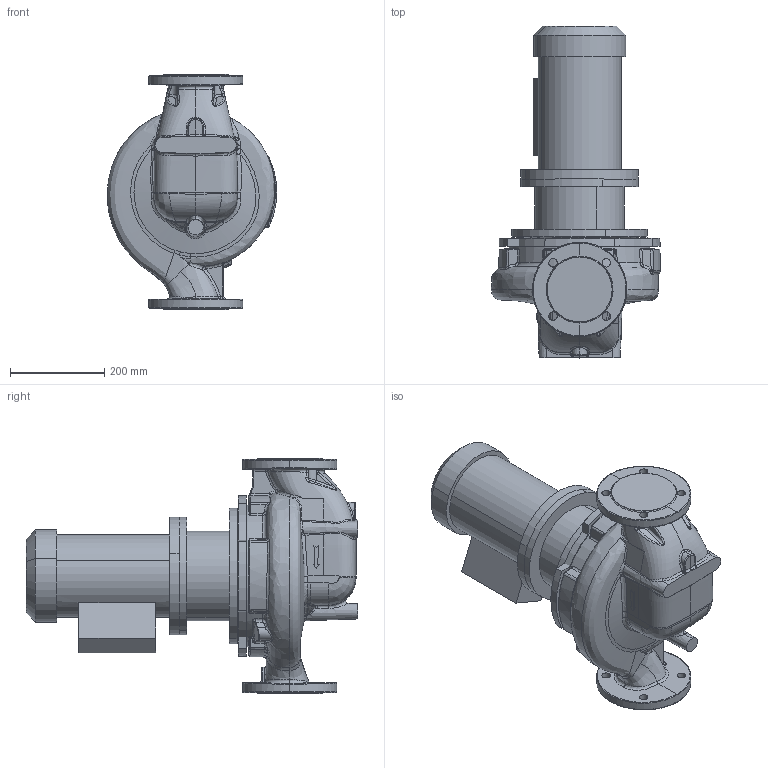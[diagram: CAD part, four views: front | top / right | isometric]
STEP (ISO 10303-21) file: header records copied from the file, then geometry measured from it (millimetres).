
FILE_DESCRIPTION (( 'STEP AP214' ), '1' );
FILE_NAME ('KRL 80-250-4-3.STEP', '2026-04-06T11:34:06', ( '' ), ( '' ), 'SwSTEP 2.0', 'SolidWorks 2016', '' );
FILE_SCHEMA (( 'AUTOMOTIVE_DESIGN' ));
Length unit declared in the file: millimetre
Products named in the file (1): KRL 80-250-4-3
Bounding box: 359.37 x 704.8 x 500 mm (x, y, z)
Volume: 34387053.5 mm3; surface area: 1404670 mm2
Topology: 10 solids, 10 shells, 607 faces, 1511 edges, 924 vertices
Faces by surface type: bspline 314, plane 114, cylinder 107, cone 43, torus 16, sphere 13
Entity records: 60266 total; most frequent: CARTESIAN_POINT 41924, ORIENTED_EDGE 2988, DIRECTION 1626, EDGE_CURVE 1494, VERTEX_POINT 924, B_SPLINE_CURVE_WITH_KNOTS 698, AXIS2_PLACEMENT_3D 688, EDGE_LOOP 642
